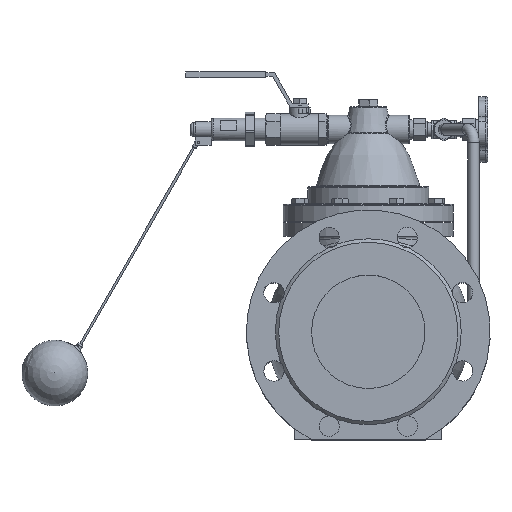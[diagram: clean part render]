
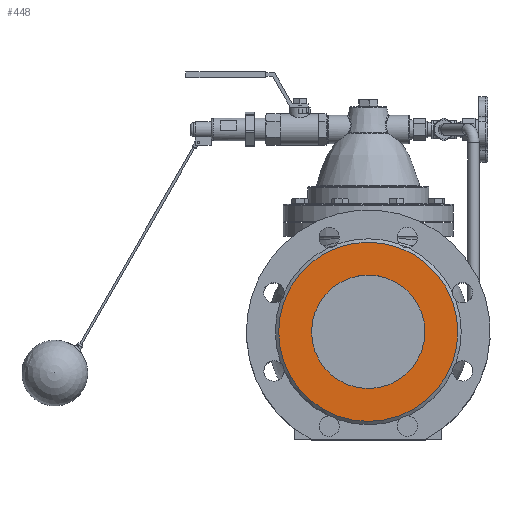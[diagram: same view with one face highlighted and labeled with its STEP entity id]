
A CAD part, top view. The second image highlights one B-rep face of the part: STEP entity #448.
In plain terms, the highlighted planar face has unit normal (0, 0, 1).
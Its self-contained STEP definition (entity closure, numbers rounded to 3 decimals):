
#448=ADVANCED_FACE('',(#4770,#4772),#4774,.T.);
#4770=FACE_BOUND('',#4771,.T.);
#4771=EDGE_LOOP('',(#10737));
#4772=FACE_BOUND('',#4773,.T.);
#4773=EDGE_LOOP('',(#10738));
#4774=PLANE('',#4775);
#4775=AXIS2_PLACEMENT_3D('',#4776,#4777,#4778);
#4776=CARTESIAN_POINT('',(0.,0.,145.));
#4777=DIRECTION('',(0.,0.,1.));
#4778=DIRECTION('',(0.,1.,0.));
#10737=ORIENTED_EDGE('',*,*,#13915,.F.);
#10738=ORIENTED_EDGE('',*,*,#13929,.T.);
#13915=EDGE_CURVE('',#16188,#16188,#16189,.T.);
#13929=EDGE_CURVE('',#16210,#16210,#16211,.F.);
#16188=VERTEX_POINT('',#26073);
#16189=CIRCLE('',#26074,79.);
#16210=VERTEX_POINT('',#26365);
#16211=CIRCLE('',#26366,50.);
#26073=CARTESIAN_POINT('',(0.,79.,145.));
#26074=AXIS2_PLACEMENT_3D('',#26075,#26076,#26077);
#26075=CARTESIAN_POINT('',(0.,0.,145.));
#26076=DIRECTION('',(0.,0.,-1.));
#26077=DIRECTION('',(0.,1.,0.));
#26365=CARTESIAN_POINT('',(50.,0.,145.));
#26366=AXIS2_PLACEMENT_3D('',#26367,#26368,#26369);
#26367=CARTESIAN_POINT('',(0.,0.,145.));
#26368=DIRECTION('',(0.,0.,1.));
#26369=DIRECTION('',(1.,0.,0.));
